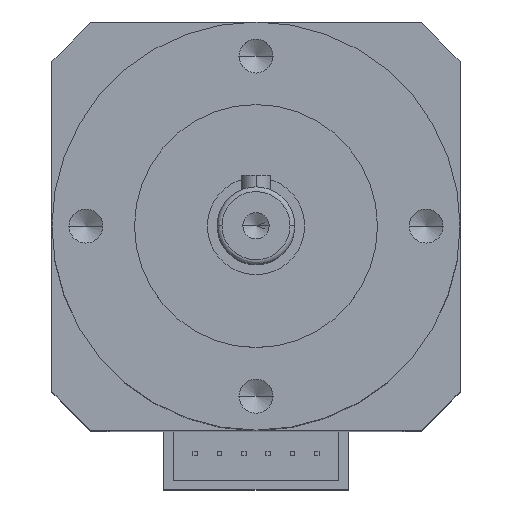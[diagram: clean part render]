
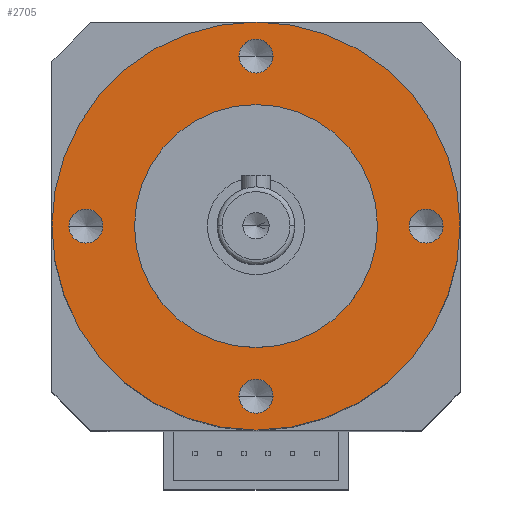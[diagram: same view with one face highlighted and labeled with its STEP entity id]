
A CAD part, top view. The second image highlights one B-rep face of the part: STEP entity #2705.
In plain terms, the highlighted planar face has unit normal (0, 0, 1).
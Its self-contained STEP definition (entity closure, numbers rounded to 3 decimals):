
#19 = CARTESIAN_POINT ( 'NONE',  ( 0., 0., 0. ) ) ;
#33 = EDGE_CURVE ( 'NONE', #442, #2239, #1429, .T. ) ;
#74 = DIRECTION ( 'NONE',  ( -1., 0., 0. ) ) ;
#79 = AXIS2_PLACEMENT_3D ( 'NONE', #3105, #2304, #1201 ) ;
#89 = DIRECTION ( 'NONE',  ( 0., 0., 1. ) ) ;
#126 = EDGE_LOOP ( 'NONE', ( #405, #3461 ) ) ;
#148 = CIRCLE ( 'NONE', #2672, 12.5 ) ;
#164 = DIRECTION ( 'NONE',  ( -1., 0., 0. ) ) ;
#168 = CARTESIAN_POINT ( 'NONE',  ( -17.5, 0., 0. ) ) ;
#192 = VERTEX_POINT ( 'NONE', #383 ) ;
#202 = EDGE_CURVE ( 'NONE', #1420, #574, #327, .T. ) ;
#210 = CARTESIAN_POINT ( 'NONE',  ( 0., -17.5, 0. ) ) ;
#226 = DIRECTION ( 'NONE',  ( -1., 0., 0. ) ) ;
#231 = ORIENTED_EDGE ( 'NONE', *, *, #899, .F. ) ;
#327 = CIRCLE ( 'NONE', #79, 1.75 ) ;
#367 = CARTESIAN_POINT ( 'NONE',  ( 15.75, 0., 0. ) ) ;
#383 = CARTESIAN_POINT ( 'NONE',  ( -21., 0., 0. ) ) ;
#396 = CARTESIAN_POINT ( 'NONE',  ( -17.5, 0., 0. ) ) ;
#405 = ORIENTED_EDGE ( 'NONE', *, *, #33, .F. ) ;
#417 = EDGE_CURVE ( 'NONE', #2239, #442, #148, .T. ) ;
#442 = VERTEX_POINT ( 'NONE', #2872 ) ;
#506 = PLANE ( 'NONE',  #2548 ) ;
#543 = EDGE_CURVE ( 'NONE', #2901, #192, #956, .T. ) ;
#560 = FACE_BOUND ( 'NONE', #2641, .T. ) ;
#574 = VERTEX_POINT ( 'NONE', #1604 ) ;
#583 = ORIENTED_EDGE ( 'NONE', *, *, #543, .F. ) ;
#587 = CARTESIAN_POINT ( 'NONE',  ( -15.75, 0., 0. ) ) ;
#619 = VERTEX_POINT ( 'NONE', #587 ) ;
#640 = VERTEX_POINT ( 'NONE', #3017 ) ;
#677 = EDGE_CURVE ( 'NONE', #574, #1420, #3029, .T. ) ;
#708 = DIRECTION ( 'NONE',  ( -1., 0., 0. ) ) ;
#801 = AXIS2_PLACEMENT_3D ( 'NONE', #889, #3073, #2268 ) ;
#809 = DIRECTION ( 'NONE',  ( -1., 0., 0. ) ) ;
#822 = CARTESIAN_POINT ( 'NONE',  ( 0., 17.5, 0. ) ) ;
#830 = EDGE_LOOP ( 'NONE', ( #583, #2786 ) ) ;
#838 = CARTESIAN_POINT ( 'NONE',  ( 19.25, 0., 0. ) ) ;
#889 = CARTESIAN_POINT ( 'NONE',  ( 0., -17.5, 0. ) ) ;
#899 = EDGE_CURVE ( 'NONE', #3260, #640, #3098, .T. ) ;
#956 = CIRCLE ( 'NONE', #1814, 21. ) ;
#1044 = AXIS2_PLACEMENT_3D ( 'NONE', #2487, #1418, #74 ) ;
#1064 = EDGE_CURVE ( 'NONE', #192, #2901, #1415, .T. ) ;
#1073 = CIRCLE ( 'NONE', #801, 1.75 ) ;
#1086 = CIRCLE ( 'NONE', #1044, 1.75 ) ;
#1097 = DIRECTION ( 'NONE',  ( -1., 0., 0. ) ) ;
#1201 = DIRECTION ( 'NONE',  ( -1., 0., 0. ) ) ;
#1283 = FACE_BOUND ( 'NONE', #3422, .T. ) ;
#1289 = CARTESIAN_POINT ( 'NONE',  ( 12.5, 0., 0. ) ) ;
#1296 = AXIS2_PLACEMENT_3D ( 'NONE', #1702, #89, #1974 ) ;
#1415 = CIRCLE ( 'NONE', #1835, 21. ) ;
#1418 = DIRECTION ( 'NONE',  ( 0., 0., 1. ) ) ;
#1420 = VERTEX_POINT ( 'NONE', #2152 ) ;
#1429 = CIRCLE ( 'NONE', #1296, 12.5 ) ;
#1454 = FACE_BOUND ( 'NONE', #2732, .T. ) ;
#1510 = ORIENTED_EDGE ( 'NONE', *, *, #3310, .F. ) ;
#1516 = CARTESIAN_POINT ( 'NONE',  ( 17.5, 0., 0. ) ) ;
#1534 = DIRECTION ( 'NONE',  ( 0., 0., 1. ) ) ;
#1536 = EDGE_CURVE ( 'NONE', #640, #3260, #1073, .T. ) ;
#1552 = CARTESIAN_POINT ( 'NONE',  ( -21., -21., 0. ) ) ;
#1572 = FACE_BOUND ( 'NONE', #126, .T. ) ;
#1604 = CARTESIAN_POINT ( 'NONE',  ( 1.75, 17.5, 0. ) ) ;
#1670 = ORIENTED_EDGE ( 'NONE', *, *, #677, .F. ) ;
#1673 = CARTESIAN_POINT ( 'NONE',  ( -19.25, 0., 0. ) ) ;
#1702 = CARTESIAN_POINT ( 'NONE',  ( 0., 0., 0. ) ) ;
#1804 = ORIENTED_EDGE ( 'NONE', *, *, #202, .F. ) ;
#1808 = DIRECTION ( 'NONE',  ( -1., 0., 0. ) ) ;
#1814 = AXIS2_PLACEMENT_3D ( 'NONE', #2102, #2419, #809 ) ;
#1835 = AXIS2_PLACEMENT_3D ( 'NONE', #19, #1903, #3267 ) ;
#1842 = ORIENTED_EDGE ( 'NONE', *, *, #2103, .F. ) ;
#1871 = FACE_OUTER_BOUND ( 'NONE', #830, .T. ) ;
#1891 = AXIS2_PLACEMENT_3D ( 'NONE', #210, #1534, #708 ) ;
#1903 = DIRECTION ( 'NONE',  ( 0., 0., -1. ) ) ;
#1928 = AXIS2_PLACEMENT_3D ( 'NONE', #168, #2614, #1808 ) ;
#1960 = ORIENTED_EDGE ( 'NONE', *, *, #3332, .F. ) ;
#1974 = DIRECTION ( 'NONE',  ( -1., 0., 0. ) ) ;
#2045 = VERTEX_POINT ( 'NONE', #367 ) ;
#2091 = CARTESIAN_POINT ( 'NONE',  ( 0., 0., 0. ) ) ;
#2102 = CARTESIAN_POINT ( 'NONE',  ( 0., 0., 0. ) ) ;
#2103 = EDGE_CURVE ( 'NONE', #3028, #619, #2539, .T. ) ;
#2152 = CARTESIAN_POINT ( 'NONE',  ( -1.75, 17.5, 0. ) ) ;
#2155 = AXIS2_PLACEMENT_3D ( 'NONE', #396, #2848, #3143 ) ;
#2239 = VERTEX_POINT ( 'NONE', #1289 ) ;
#2247 = AXIS2_PLACEMENT_3D ( 'NONE', #822, #2709, #1097 ) ;
#2268 = DIRECTION ( 'NONE',  ( -1., 0., 0. ) ) ;
#2304 = DIRECTION ( 'NONE',  ( 0., 0., 1. ) ) ;
#2335 = DIRECTION ( 'NONE',  ( -1., 0., 0. ) ) ;
#2419 = DIRECTION ( 'NONE',  ( 0., 0., -1. ) ) ;
#2424 = ORIENTED_EDGE ( 'NONE', *, *, #1536, .F. ) ;
#2487 = CARTESIAN_POINT ( 'NONE',  ( 17.5, 0., 0. ) ) ;
#2539 = CIRCLE ( 'NONE', #2155, 1.75 ) ;
#2548 = AXIS2_PLACEMENT_3D ( 'NONE', #1552, #2899, #226 ) ;
#2614 = DIRECTION ( 'NONE',  ( 0., 0., 1. ) ) ;
#2641 = EDGE_LOOP ( 'NONE', ( #2951, #1960 ) ) ;
#2672 = AXIS2_PLACEMENT_3D ( 'NONE', #2091, #3178, #164 ) ;
#2705 = ADVANCED_FACE ( 'NONE', ( #3095, #560, #1454, #1283, #1572, #1871 ), #506, .F. ) ;
#2709 = DIRECTION ( 'NONE',  ( 0., 0., 1. ) ) ;
#2732 = EDGE_LOOP ( 'NONE', ( #1804, #1670 ) ) ;
#2758 = AXIS2_PLACEMENT_3D ( 'NONE', #1516, #3171, #2335 ) ;
#2786 = ORIENTED_EDGE ( 'NONE', *, *, #1064, .F. ) ;
#2802 = CARTESIAN_POINT ( 'NONE',  ( -1.75, -17.5, 0. ) ) ;
#2848 = DIRECTION ( 'NONE',  ( 0., 0., 1. ) ) ;
#2872 = CARTESIAN_POINT ( 'NONE',  ( -12.5, 0., 0. ) ) ;
#2899 = DIRECTION ( 'NONE',  ( 0., 0., -1. ) ) ;
#2901 = VERTEX_POINT ( 'NONE', #3506 ) ;
#2936 = EDGE_LOOP ( 'NONE', ( #231, #2424 ) ) ;
#2938 = VERTEX_POINT ( 'NONE', #838 ) ;
#2951 = ORIENTED_EDGE ( 'NONE', *, *, #3123, .F. ) ;
#3017 = CARTESIAN_POINT ( 'NONE',  ( 1.75, -17.5, 0. ) ) ;
#3028 = VERTEX_POINT ( 'NONE', #1673 ) ;
#3029 = CIRCLE ( 'NONE', #2247, 1.75 ) ;
#3073 = DIRECTION ( 'NONE',  ( 0., 0., 1. ) ) ;
#3095 = FACE_BOUND ( 'NONE', #2936, .T. ) ;
#3098 = CIRCLE ( 'NONE', #1891, 1.75 ) ;
#3103 = CIRCLE ( 'NONE', #2758, 1.75 ) ;
#3105 = CARTESIAN_POINT ( 'NONE',  ( 0., 17.5, 0. ) ) ;
#3123 = EDGE_CURVE ( 'NONE', #2045, #2938, #1086, .T. ) ;
#3143 = DIRECTION ( 'NONE',  ( -1., 0., 0. ) ) ;
#3171 = DIRECTION ( 'NONE',  ( 0., 0., 1. ) ) ;
#3178 = DIRECTION ( 'NONE',  ( 0., 0., 1. ) ) ;
#3260 = VERTEX_POINT ( 'NONE', #2802 ) ;
#3267 = DIRECTION ( 'NONE',  ( -1., 0., 0. ) ) ;
#3310 = EDGE_CURVE ( 'NONE', #619, #3028, #3322, .T. ) ;
#3322 = CIRCLE ( 'NONE', #1928, 1.75 ) ;
#3332 = EDGE_CURVE ( 'NONE', #2938, #2045, #3103, .T. ) ;
#3422 = EDGE_LOOP ( 'NONE', ( #1842, #1510 ) ) ;
#3461 = ORIENTED_EDGE ( 'NONE', *, *, #417, .F. ) ;
#3506 = CARTESIAN_POINT ( 'NONE',  ( 21., 0., 0. ) ) ;
